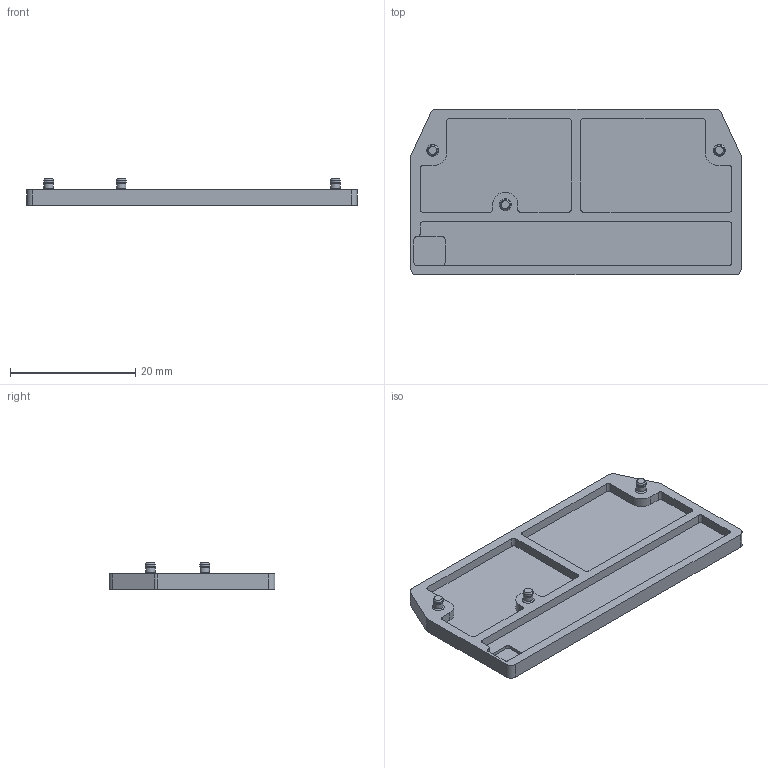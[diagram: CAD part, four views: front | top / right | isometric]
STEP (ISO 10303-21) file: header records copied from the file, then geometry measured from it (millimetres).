
FILE_DESCRIPTION (( 'STEP AP203' ), '1' );
FILE_NAME ('署赅 阎褪.757537.060.STEP', '2020-02-13T10:53:36', ( '' ), ( '' ), 'SwSTEP 2.0', 'SolidWorks 2016', '' );
FILE_SCHEMA (( 'CONFIG_CONTROL_DESIGN' ));
Length unit declared in the file: millimetre
Products named in the file (1): 署赅 阎褪.757537.060
Bounding box: 52.8 x 26.5 x 4.3 mm (x, y, z)
Volume: 1858.4 mm3; surface area: 3616.1 mm2
Topology: 1 solids, 1 shells, 93 faces, 229 edges, 148 vertices
Faces by surface type: plane 45, cylinder 39, cone 9
Full cylindrical faces by diameter (mm): 1.5 x3, 1.6 x3, 2 x3
Entity records: 2741 total; most frequent: DIRECTION 482, CARTESIAN_POINT 453, ORIENTED_EDGE 422, EDGE_CURVE 211, AXIS2_PLACEMENT_3D 177, VERTEX_POINT 148, VECTOR 128, LINE 128
